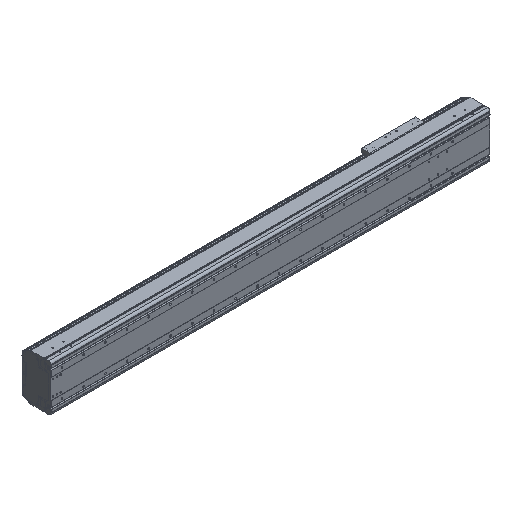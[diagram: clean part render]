
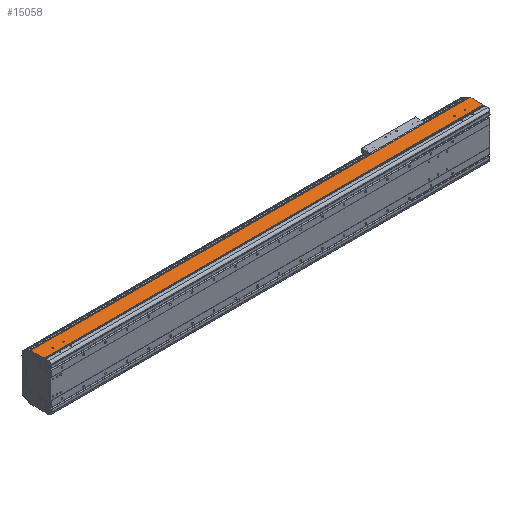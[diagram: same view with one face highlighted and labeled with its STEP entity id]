
A CAD part, isometric view. The second image highlights one B-rep face of the part: STEP entity #15058.
In plain terms, the highlighted planar face has unit normal (0, 0, 1).
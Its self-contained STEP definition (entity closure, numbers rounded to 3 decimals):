
#1840=DIRECTION('',(0.,-1.,0.));
#1841=VECTOR('',#1840,2.55);
#1842=CARTESIAN_POINT('',(0.,34.65,107.));
#1843=LINE('',#1842,#1841);
#2323=DIRECTION('',(1.,0.,0.));
#2324=VECTOR('',#2323,2.);
#2325=CARTESIAN_POINT('',(-2021.,34.65,107.));
#2326=LINE('',#2325,#2324);
#2327=CARTESIAN_POINT('',(-59.5,54.,107.));
#2328=DIRECTION('',(0.,0.,-1.));
#2329=DIRECTION('',(1.,0.,0.));
#2330=AXIS2_PLACEMENT_3D('',#2327,#2328,#2329);
#2332=CARTESIAN_POINT('',(-59.5,54.,107.));
#2333=DIRECTION('',(0.,0.,-1.));
#2334=DIRECTION('',(-1.,0.,0.));
#2335=AXIS2_PLACEMENT_3D('',#2332,#2333,#2334);
#2337=CARTESIAN_POINT('',(-109.5,54.,107.));
#2338=DIRECTION('',(0.,0.,-1.));
#2339=DIRECTION('',(1.,0.,0.));
#2340=AXIS2_PLACEMENT_3D('',#2337,#2338,#2339);
#2342=CARTESIAN_POINT('',(-109.5,54.,107.));
#2343=DIRECTION('',(0.,0.,-1.));
#2344=DIRECTION('',(-1.,0.,0.));
#2345=AXIS2_PLACEMENT_3D('',#2342,#2343,#2344);
#2347=CARTESIAN_POINT('',(-1959.5,54.,107.));
#2348=DIRECTION('',(0.,0.,-1.));
#2349=DIRECTION('',(1.,0.,0.));
#2350=AXIS2_PLACEMENT_3D('',#2347,#2348,#2349);
#2352=CARTESIAN_POINT('',(-1959.5,54.,107.));
#2353=DIRECTION('',(0.,0.,-1.));
#2354=DIRECTION('',(-1.,0.,0.));
#2355=AXIS2_PLACEMENT_3D('',#2352,#2353,#2354);
#2357=CARTESIAN_POINT('',(-1909.5,54.,107.));
#2358=DIRECTION('',(0.,0.,-1.));
#2359=DIRECTION('',(1.,0.,0.));
#2360=AXIS2_PLACEMENT_3D('',#2357,#2358,#2359);
#2362=CARTESIAN_POINT('',(-1909.5,54.,107.));
#2363=DIRECTION('',(0.,0.,-1.));
#2364=DIRECTION('',(-1.,0.,0.));
#2365=AXIS2_PLACEMENT_3D('',#2362,#2363,#2364);
#2367=DIRECTION('',(0.,-1.,0.));
#2368=VECTOR('',#2367,2.55);
#2369=CARTESIAN_POINT('',(-2019.,34.65,107.));
#2370=LINE('',#2369,#2368);
#2371=DIRECTION('',(0.,-1.,0.));
#2372=VECTOR('',#2371,58.85);
#2373=CARTESIAN_POINT('',(-2021.,93.5,107.));
#2374=LINE('',#2373,#2372);
#2375=DIRECTION('',(0.,1.,0.));
#2376=VECTOR('',#2375,58.85);
#2377=CARTESIAN_POINT('',(2.,34.65,107.));
#2378=LINE('',#2377,#2376);
#2379=DIRECTION('',(1.,0.,0.));
#2380=VECTOR('',#2379,2019.);
#2381=CARTESIAN_POINT('',(-2019.,32.1,107.));
#2382=LINE('',#2381,#2380);
#2487=DIRECTION('',(-1.,0.,0.));
#2488=VECTOR('',#2487,2023.);
#2489=CARTESIAN_POINT('',(2.,93.5,107.));
#2490=LINE('',#2489,#2488);
#8253=DIRECTION('',(1.,0.,0.));
#8254=VECTOR('',#8253,2.);
#8255=CARTESIAN_POINT('',(0.,34.65,107.));
#8256=LINE('',#8255,#8254);
#9577=CARTESIAN_POINT('',(-2021.,34.65,107.));
#9578=VERTEX_POINT('',#9577);
#9579=CARTESIAN_POINT('',(-2021.,93.5,107.));
#9580=VERTEX_POINT('',#9579);
#9809=CARTESIAN_POINT('',(-2019.,32.1,107.));
#9810=VERTEX_POINT('',#9809);
#10157=CARTESIAN_POINT('',(0.,32.1,107.));
#10158=VERTEX_POINT('',#10157);
#10159=CARTESIAN_POINT('',(-57.,54.,107.));
#10160=CARTESIAN_POINT('',(-62.,54.,107.));
#10161=VERTEX_POINT('',#10159);
#10162=VERTEX_POINT('',#10160);
#10163=CARTESIAN_POINT('',(-107.,54.,107.));
#10164=CARTESIAN_POINT('',(-112.,54.,107.));
#10165=VERTEX_POINT('',#10163);
#10166=VERTEX_POINT('',#10164);
#10167=CARTESIAN_POINT('',(-1957.,54.,107.));
#10168=CARTESIAN_POINT('',(-1962.,54.,107.));
#10169=VERTEX_POINT('',#10167);
#10170=VERTEX_POINT('',#10168);
#10171=CARTESIAN_POINT('',(-1907.,54.,107.));
#10172=CARTESIAN_POINT('',(-1912.,54.,107.));
#10173=VERTEX_POINT('',#10171);
#10174=VERTEX_POINT('',#10172);
#10882=CARTESIAN_POINT('',(2.,34.65,107.));
#10883=VERTEX_POINT('',#10882);
#10884=CARTESIAN_POINT('',(2.,93.5,107.));
#10885=VERTEX_POINT('',#10884);
#11336=CARTESIAN_POINT('',(0.,34.65,107.));
#11337=VERTEX_POINT('',#11336);
#11416=CARTESIAN_POINT('',(-2019.,34.65,107.));
#11417=VERTEX_POINT('',#11416);
#15016=CARTESIAN_POINT('',(-1009.5,62.8,107.));
#15017=DIRECTION('',(0.,0.,1.));
#15018=DIRECTION('',(0.,-1.,0.));
#15019=AXIS2_PLACEMENT_3D('',#15016,#15017,#15018);
#15020=PLANE('',#15019);
#15021=ORIENTED_EDGE('',*,*,#12502,.F.);
#15022=ORIENTED_EDGE('',*,*,#15011,.F.);
#15023=ORIENTED_EDGE('',*,*,#13131,.F.);
#15025=ORIENTED_EDGE('',*,*,#15024,.F.);
#15026=ORIENTED_EDGE('',*,*,#12239,.F.);
#15028=ORIENTED_EDGE('',*,*,#15027,.F.);
#15029=ORIENTED_EDGE('',*,*,#14619,.T.);
#15031=ORIENTED_EDGE('',*,*,#15030,.F.);
#15032=EDGE_LOOP('',(#15021,#15022,#15023,#15025,#15026,#15028,#15029,#15031));
#15033=FACE_OUTER_BOUND('',#15032,.F.);
#15035=ORIENTED_EDGE('',*,*,#15034,.F.);
#15037=ORIENTED_EDGE('',*,*,#15036,.F.);
#15038=EDGE_LOOP('',(#15035,#15037));
#15039=FACE_BOUND('',#15038,.F.);
#15041=ORIENTED_EDGE('',*,*,#15040,.F.);
#15043=ORIENTED_EDGE('',*,*,#15042,.F.);
#15044=EDGE_LOOP('',(#15041,#15043));
#15045=FACE_BOUND('',#15044,.F.);
#15047=ORIENTED_EDGE('',*,*,#15046,.F.);
#15049=ORIENTED_EDGE('',*,*,#15048,.F.);
#15050=EDGE_LOOP('',(#15047,#15049));
#15051=FACE_BOUND('',#15050,.F.);
#15053=ORIENTED_EDGE('',*,*,#15052,.F.);
#15055=ORIENTED_EDGE('',*,*,#15054,.F.);
#15056=EDGE_LOOP('',(#15053,#15055));
#15057=FACE_BOUND('',#15056,.F.);
#15058=ADVANCED_FACE('',(#15033,#15039,#15045,#15051,#15057),#15020,.T.);
#2331=CIRCLE('',#2330,2.5);
#2336=CIRCLE('',#2335,2.5);
#2341=CIRCLE('',#2340,2.5);
#2346=CIRCLE('',#2345,2.5);
#2351=CIRCLE('',#2350,2.5);
#2356=CIRCLE('',#2355,2.5);
#2361=CIRCLE('',#2360,2.5);
#2366=CIRCLE('',#2365,2.5);
#12239=EDGE_CURVE('',#10883,#10885,#2378,.T.);
#12502=EDGE_CURVE('',#11417,#9810,#2370,.T.);
#13131=EDGE_CURVE('',#9580,#9578,#2374,.T.);
#14619=EDGE_CURVE('',#11337,#10158,#1843,.T.);
#15011=EDGE_CURVE('',#9578,#11417,#2326,.T.);
#15024=EDGE_CURVE('',#10885,#9580,#2490,.T.);
#15027=EDGE_CURVE('',#11337,#10883,#8256,.T.);
#15030=EDGE_CURVE('',#9810,#10158,#2382,.T.);
#15034=EDGE_CURVE('',#10165,#10166,#2341,.T.);
#15036=EDGE_CURVE('',#10166,#10165,#2346,.T.);
#15040=EDGE_CURVE('',#10169,#10170,#2351,.T.);
#15042=EDGE_CURVE('',#10170,#10169,#2356,.T.);
#15046=EDGE_CURVE('',#10173,#10174,#2361,.T.);
#15048=EDGE_CURVE('',#10174,#10173,#2366,.T.);
#15052=EDGE_CURVE('',#10161,#10162,#2331,.T.);
#15054=EDGE_CURVE('',#10162,#10161,#2336,.T.);
